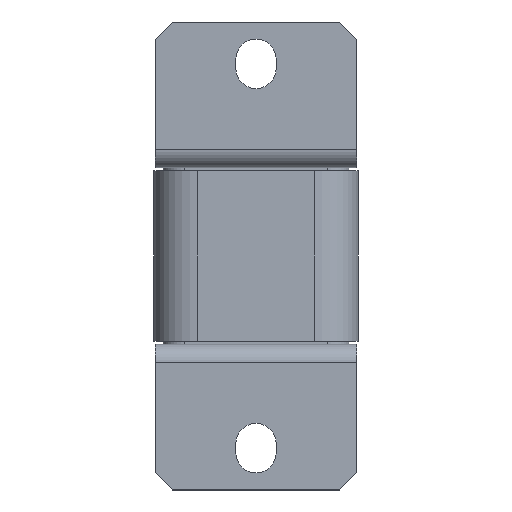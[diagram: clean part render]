
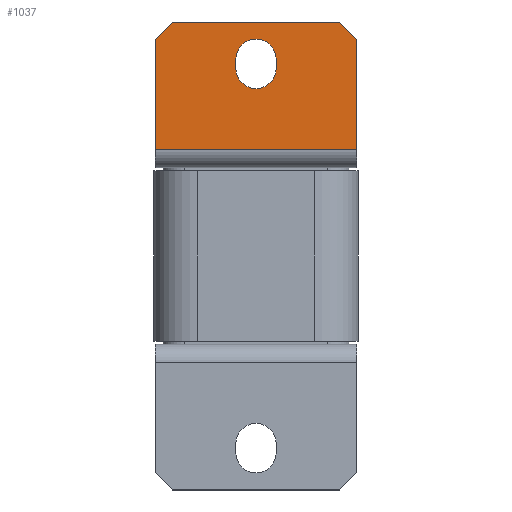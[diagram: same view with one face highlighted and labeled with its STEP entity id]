
A CAD part, front view. The second image highlights one B-rep face of the part: STEP entity #1037.
In plain terms, the highlighted planar face has unit normal (0, -1, 0).
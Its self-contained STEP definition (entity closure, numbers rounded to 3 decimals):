
#171 = CARTESIAN_POINT ( 'NONE',  ( -29.868, -16.503, 33. ) ) ;
#255 = CARTESIAN_POINT ( 'NONE',  ( -36.368, -16.503, 36. ) ) ;
#295 = VECTOR ( 'NONE', #14811, 1000. ) ;
#323 = EDGE_CURVE ( 'NONE', #7297, #5042, #2597, .T. ) ;
#397 = LINE ( 'NONE', #7924, #14857 ) ;
#424 = CARTESIAN_POINT ( 'NONE',  ( -56.868, -16.503, 48. ) ) ;
#856 = EDGE_CURVE ( 'NONE', #10096, #1091, #397, .T. ) ;
#928 = CIRCLE ( 'NONE', #6805, 6.5 ) ;
#1037 = ADVANCED_FACE ( 'NONE', ( #10426, #6998 ), #10693, .F. ) ;
#1091 = VERTEX_POINT ( 'NONE', #424 ) ;
#1144 = CARTESIAN_POINT ( 'NONE',  ( -36.368, -16.503, 36. ) ) ;
#1538 = VECTOR ( 'NONE', #8313, 1000. ) ;
#1669 = DIRECTION ( 'NONE',  ( 0., 1., 0. ) ) ;
#1729 = CARTESIAN_POINT ( 'NONE',  ( -36.368, -16.503, 33. ) ) ;
#2047 = ORIENTED_EDGE ( 'NONE', *, *, #323, .F. ) ;
#2058 = LINE ( 'NONE', #10861, #11411 ) ;
#2127 = VECTOR ( 'NONE', #5156, 1000. ) ;
#2388 = DIRECTION ( 'NONE',  ( -1., 0., 0. ) ) ;
#2408 = DIRECTION ( 'NONE',  ( 0., -1., 0. ) ) ;
#2465 = EDGE_CURVE ( 'NONE', #1091, #10603, #8201, .T. ) ;
#2597 = CIRCLE ( 'NONE', #8068, 6.5 ) ;
#2670 = ORIENTED_EDGE ( 'NONE', *, *, #856, .T. ) ;
#3266 = VERTEX_POINT ( 'NONE', #255 ) ;
#3316 = EDGE_CURVE ( 'NONE', #8966, #12460, #9937, .T. ) ;
#3512 = DIRECTION ( 'NONE',  ( 0., 0., -1. ) ) ;
#4013 = CARTESIAN_POINT ( 'NONE',  ( -56.868, -16.503, 48. ) ) ;
#4142 = ORIENTED_EDGE ( 'NONE', *, *, #3316, .F. ) ;
#4276 = EDGE_LOOP ( 'NONE', ( #4142, #14649, #9491, #2670, #14206, #7565 ) ) ;
#4495 = CARTESIAN_POINT ( 'NONE',  ( 2.632, -16.503, 42.5 ) ) ;
#4995 = CARTESIAN_POINT ( 'NONE',  ( -29.868, -16.503, 36. ) ) ;
#5042 = VERTEX_POINT ( 'NONE', #12885 ) ;
#5156 = DIRECTION ( 'NONE',  ( -0.707, 0., -0.707 ) ) ;
#5488 = CARTESIAN_POINT ( 'NONE',  ( -62.368, -16.503, 7. ) ) ;
#5658 = CARTESIAN_POINT ( 'NONE',  ( -2.868, -16.503, 48. ) ) ;
#5895 = VECTOR ( 'NONE', #10386, 1000. ) ;
#6154 = ORIENTED_EDGE ( 'NONE', *, *, #9879, .F. ) ;
#6200 = DIRECTION ( 'NONE',  ( 0., -1., 0. ) ) ;
#6279 = DIRECTION ( 'NONE',  ( 0., 0., 1. ) ) ;
#6805 = AXIS2_PLACEMENT_3D ( 'NONE', #4995, #6200, #14323 ) ;
#6998 = FACE_OUTER_BOUND ( 'NONE', #4276, .T. ) ;
#7161 = AXIS2_PLACEMENT_3D ( 'NONE', #10841, #14445, #7487 ) ;
#7294 = EDGE_CURVE ( 'NONE', #5042, #12359, #7526, .T. ) ;
#7297 = VERTEX_POINT ( 'NONE', #1729 ) ;
#7467 = CARTESIAN_POINT ( 'NONE',  ( -62.368, -16.503, 42.5 ) ) ;
#7487 = DIRECTION ( 'NONE',  ( 0., 0., -1. ) ) ;
#7526 = LINE ( 'NONE', #7609, #9177 ) ;
#7565 = ORIENTED_EDGE ( 'NONE', *, *, #11549, .T. ) ;
#7609 = CARTESIAN_POINT ( 'NONE',  ( -23.368, -16.503, 36. ) ) ;
#7676 = EDGE_CURVE ( 'NONE', #13153, #3266, #928, .T. ) ;
#7764 = CIRCLE ( 'NONE', #7161, 6.5 ) ;
#7918 = AXIS2_PLACEMENT_3D ( 'NONE', #12055, #1669, #6279 ) ;
#7924 = CARTESIAN_POINT ( 'NONE',  ( -56.868, -16.503, 48. ) ) ;
#8012 = EDGE_CURVE ( 'NONE', #8966, #9079, #10739, .T. ) ;
#8068 = AXIS2_PLACEMENT_3D ( 'NONE', #171, #2408, #3512 ) ;
#8201 = LINE ( 'NONE', #4013, #2127 ) ;
#8313 = DIRECTION ( 'NONE',  ( 0., 0., -1. ) ) ;
#8966 = VERTEX_POINT ( 'NONE', #9724 ) ;
#9079 = VERTEX_POINT ( 'NONE', #4495 ) ;
#9177 = VECTOR ( 'NONE', #12130, 1000. ) ;
#9430 = CARTESIAN_POINT ( 'NONE',  ( 2.632, -16.503, 7. ) ) ;
#9477 = EDGE_CURVE ( 'NONE', #9079, #10096, #2058, .T. ) ;
#9491 = ORIENTED_EDGE ( 'NONE', *, *, #9477, .T. ) ;
#9611 = DIRECTION ( 'NONE',  ( -1., 0., 0. ) ) ;
#9724 = CARTESIAN_POINT ( 'NONE',  ( 2.632, -16.503, 7. ) ) ;
#9879 = EDGE_CURVE ( 'NONE', #12359, #13153, #7764, .T. ) ;
#9937 = LINE ( 'NONE', #9430, #12164 ) ;
#10096 = VERTEX_POINT ( 'NONE', #5658 ) ;
#10359 = ORIENTED_EDGE ( 'NONE', *, *, #7294, .F. ) ;
#10386 = DIRECTION ( 'NONE',  ( 0., 0., 1. ) ) ;
#10426 = FACE_BOUND ( 'NONE', #14293, .T. ) ;
#10526 = CARTESIAN_POINT ( 'NONE',  ( -29.868, -16.503, 42.5 ) ) ;
#10603 = VERTEX_POINT ( 'NONE', #7467 ) ;
#10693 = PLANE ( 'NONE',  #7918 ) ;
#10739 = LINE ( 'NONE', #11692, #5895 ) ;
#10841 = CARTESIAN_POINT ( 'NONE',  ( -29.868, -16.503, 36. ) ) ;
#10861 = CARTESIAN_POINT ( 'NONE',  ( -2.868, -16.503, 48. ) ) ;
#11411 = VECTOR ( 'NONE', #12492, 1000. ) ;
#11549 = EDGE_CURVE ( 'NONE', #10603, #12460, #12920, .T. ) ;
#11692 = CARTESIAN_POINT ( 'NONE',  ( 2.632, -16.503, 42.5 ) ) ;
#12055 = CARTESIAN_POINT ( 'NONE',  ( 2.632, -16.503, 4. ) ) ;
#12130 = DIRECTION ( 'NONE',  ( 0., 0., 1. ) ) ;
#12164 = VECTOR ( 'NONE', #9611, 1000. ) ;
#12359 = VERTEX_POINT ( 'NONE', #14622 ) ;
#12460 = VERTEX_POINT ( 'NONE', #5488 ) ;
#12492 = DIRECTION ( 'NONE',  ( -0.707, 0., 0.707 ) ) ;
#12572 = LINE ( 'NONE', #1144, #295 ) ;
#12885 = CARTESIAN_POINT ( 'NONE',  ( -23.368, -16.503, 33. ) ) ;
#12920 = LINE ( 'NONE', #12969, #1538 ) ;
#12969 = CARTESIAN_POINT ( 'NONE',  ( -62.368, -16.503, 4. ) ) ;
#13153 = VERTEX_POINT ( 'NONE', #10526 ) ;
#13409 = ORIENTED_EDGE ( 'NONE', *, *, #14659, .F. ) ;
#13947 = ORIENTED_EDGE ( 'NONE', *, *, #7676, .F. ) ;
#14206 = ORIENTED_EDGE ( 'NONE', *, *, #2465, .T. ) ;
#14293 = EDGE_LOOP ( 'NONE', ( #6154, #10359, #2047, #13409, #13947 ) ) ;
#14323 = DIRECTION ( 'NONE',  ( 0., 0., -1. ) ) ;
#14445 = DIRECTION ( 'NONE',  ( 0., -1., 0. ) ) ;
#14622 = CARTESIAN_POINT ( 'NONE',  ( -23.368, -16.503, 36. ) ) ;
#14649 = ORIENTED_EDGE ( 'NONE', *, *, #8012, .T. ) ;
#14659 = EDGE_CURVE ( 'NONE', #3266, #7297, #12572, .T. ) ;
#14811 = DIRECTION ( 'NONE',  ( 0., 0., -1. ) ) ;
#14857 = VECTOR ( 'NONE', #2388, 1000. ) ;
